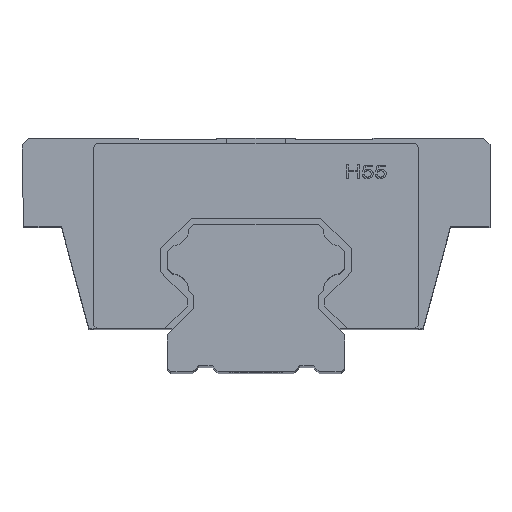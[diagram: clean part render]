
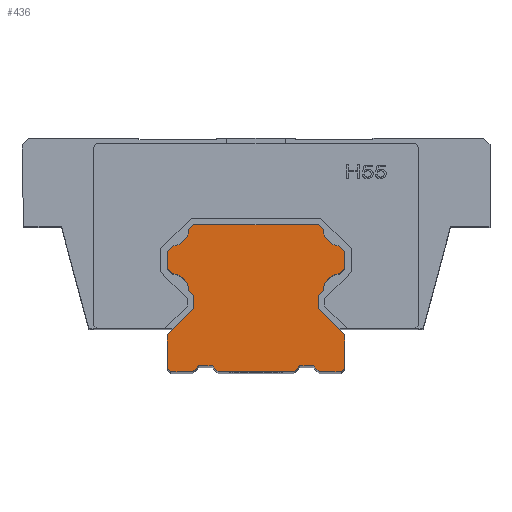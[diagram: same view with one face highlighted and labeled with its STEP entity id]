
A CAD part, top view. The second image highlights one B-rep face of the part: STEP entity #436.
In plain terms, the highlighted planar face has unit normal (0, 0, 1).
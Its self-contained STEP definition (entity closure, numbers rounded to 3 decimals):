
#213=FACE_OUTER_BOUND('',#931,.T.);
#436=ADVANCED_FACE('',(#213),#638,.F.);
#638=PLANE('',#4221);
#813=CIRCLE('',#4217,5.3);
#814=CIRCLE('',#4218,5.3);
#815=CIRCLE('',#4219,5.3);
#816=CIRCLE('',#4220,5.3);
#931=EDGE_LOOP('',(#1175,#1176,#1177,#1178,#1179,#1180,#1181,#1182,#1183,
#1184,#1185,#1186,#1187,#1188,#1189,#1190,#1191,#1192,#1193,#1194,#1195,
#1196,#1197,#1198,#1199,#1200,#1201,#1202,#1203,#1204,#1205,#1206));
#1175=ORIENTED_EDGE('',*,*,#2727,.F.);
#1176=ORIENTED_EDGE('',*,*,#2728,.T.);
#1177=ORIENTED_EDGE('',*,*,#2729,.F.);
#1178=ORIENTED_EDGE('',*,*,#2730,.T.);
#1179=ORIENTED_EDGE('',*,*,#2731,.F.);
#1180=ORIENTED_EDGE('',*,*,#2732,.F.);
#1181=ORIENTED_EDGE('',*,*,#2733,.F.);
#1182=ORIENTED_EDGE('',*,*,#2734,.T.);
#1183=ORIENTED_EDGE('',*,*,#2735,.F.);
#1184=ORIENTED_EDGE('',*,*,#2736,.F.);
#1185=ORIENTED_EDGE('',*,*,#2737,.F.);
#1186=ORIENTED_EDGE('',*,*,#2720,.F.);
#1187=ORIENTED_EDGE('',*,*,#2738,.F.);
#1188=ORIENTED_EDGE('',*,*,#2739,.F.);
#1189=ORIENTED_EDGE('',*,*,#2740,.F.);
#1190=ORIENTED_EDGE('',*,*,#2741,.F.);
#1191=ORIENTED_EDGE('',*,*,#2742,.F.);
#1192=ORIENTED_EDGE('',*,*,#2743,.F.);
#1193=ORIENTED_EDGE('',*,*,#2744,.F.);
#1194=ORIENTED_EDGE('',*,*,#2745,.F.);
#1195=ORIENTED_EDGE('',*,*,#2746,.F.);
#1196=ORIENTED_EDGE('',*,*,#2747,.F.);
#1197=ORIENTED_EDGE('',*,*,#2748,.F.);
#1198=ORIENTED_EDGE('',*,*,#2749,.T.);
#1199=ORIENTED_EDGE('',*,*,#2750,.F.);
#1200=ORIENTED_EDGE('',*,*,#2751,.F.);
#1201=ORIENTED_EDGE('',*,*,#2752,.F.);
#1202=ORIENTED_EDGE('',*,*,#2710,.T.);
#1203=ORIENTED_EDGE('',*,*,#2753,.F.);
#1204=ORIENTED_EDGE('',*,*,#2754,.F.);
#1205=ORIENTED_EDGE('',*,*,#2755,.F.);
#1206=ORIENTED_EDGE('',*,*,#2756,.T.);
#2311=VERTEX_POINT('',#5418);
#2314=VERTEX_POINT('',#5423);
#2321=VERTEX_POINT('',#5442);
#2324=VERTEX_POINT('',#5447);
#2331=VERTEX_POINT('',#5469);
#2332=VERTEX_POINT('',#5470);
#2333=VERTEX_POINT('',#5472);
#2334=VERTEX_POINT('',#5474);
#2335=VERTEX_POINT('',#5476);
#2336=VERTEX_POINT('',#5478);
#2337=VERTEX_POINT('',#5480);
#2338=VERTEX_POINT('',#5482);
#2339=VERTEX_POINT('',#5484);
#2340=VERTEX_POINT('',#5486);
#2341=VERTEX_POINT('',#5488);
#2342=VERTEX_POINT('',#5491);
#2343=VERTEX_POINT('',#5493);
#2344=VERTEX_POINT('',#5495);
#2345=VERTEX_POINT('',#5497);
#2346=VERTEX_POINT('',#5499);
#2347=VERTEX_POINT('',#5501);
#2348=VERTEX_POINT('',#5503);
#2349=VERTEX_POINT('',#5505);
#2350=VERTEX_POINT('',#5507);
#2351=VERTEX_POINT('',#5509);
#2352=VERTEX_POINT('',#5511);
#2353=VERTEX_POINT('',#5513);
#2354=VERTEX_POINT('',#5515);
#2355=VERTEX_POINT('',#5517);
#2356=VERTEX_POINT('',#5520);
#2357=VERTEX_POINT('',#5522);
#2358=VERTEX_POINT('',#5524);
#2710=EDGE_CURVE('',#2311,#2314,#3294,.T.);
#2720=EDGE_CURVE('',#2324,#2321,#3298,.T.);
#2727=EDGE_CURVE('',#2331,#2332,#3299,.T.);
#2728=EDGE_CURVE('',#2331,#2333,#3300,.T.);
#2729=EDGE_CURVE('',#2334,#2333,#3301,.T.);
#2730=EDGE_CURVE('',#2334,#2335,#3302,.T.);
#2731=EDGE_CURVE('',#2336,#2335,#3303,.T.);
#2732=EDGE_CURVE('',#2337,#2336,#813,.T.);
#2733=EDGE_CURVE('',#2338,#2337,#3304,.T.);
#2734=EDGE_CURVE('',#2338,#2339,#3305,.T.);
#2735=EDGE_CURVE('',#2340,#2339,#3306,.T.);
#2736=EDGE_CURVE('',#2341,#2340,#814,.T.);
#2737=EDGE_CURVE('',#2321,#2341,#3307,.T.);
#2738=EDGE_CURVE('',#2342,#2324,#3308,.T.);
#2739=EDGE_CURVE('',#2343,#2342,#815,.T.);
#2740=EDGE_CURVE('',#2344,#2343,#3309,.T.);
#2741=EDGE_CURVE('',#2345,#2344,#3310,.T.);
#2742=EDGE_CURVE('',#2346,#2345,#3311,.T.);
#2743=EDGE_CURVE('',#2347,#2346,#816,.T.);
#2744=EDGE_CURVE('',#2348,#2347,#3312,.T.);
#2745=EDGE_CURVE('',#2349,#2348,#3313,.T.);
#2746=EDGE_CURVE('',#2350,#2349,#3314,.T.);
#2747=EDGE_CURVE('',#2351,#2350,#3315,.T.);
#2748=EDGE_CURVE('',#2352,#2351,#3316,.T.);
#2749=EDGE_CURVE('',#2352,#2353,#3317,.T.);
#2750=EDGE_CURVE('',#2354,#2353,#3318,.T.);
#2751=EDGE_CURVE('',#2355,#2354,#3319,.T.);
#2752=EDGE_CURVE('',#2311,#2355,#3320,.T.);
#2753=EDGE_CURVE('',#2356,#2314,#3321,.T.);
#2754=EDGE_CURVE('',#2357,#2356,#3322,.T.);
#2755=EDGE_CURVE('',#2358,#2357,#3323,.T.);
#2756=EDGE_CURVE('',#2358,#2332,#3324,.T.);
#3294=LINE('',#5424,#3738);
#3298=LINE('',#5448,#3742);
#3299=LINE('',#5468,#3743);
#3300=LINE('',#5471,#3744);
#3301=LINE('',#5473,#3745);
#3302=LINE('',#5475,#3746);
#3303=LINE('',#5477,#3747);
#3304=LINE('',#5481,#3748);
#3305=LINE('',#5483,#3749);
#3306=LINE('',#5485,#3750);
#3307=LINE('',#5489,#3751);
#3308=LINE('',#5490,#3752);
#3309=LINE('',#5494,#3753);
#3310=LINE('',#5496,#3754);
#3311=LINE('',#5498,#3755);
#3312=LINE('',#5502,#3756);
#3313=LINE('',#5504,#3757);
#3314=LINE('',#5506,#3758);
#3315=LINE('',#5508,#3759);
#3316=LINE('',#5510,#3760);
#3317=LINE('',#5512,#3761);
#3318=LINE('',#5514,#3762);
#3319=LINE('',#5516,#3763);
#3320=LINE('',#5518,#3764);
#3321=LINE('',#5519,#3765);
#3322=LINE('',#5521,#3766);
#3323=LINE('',#5523,#3767);
#3324=LINE('',#5525,#3768);
#3738=VECTOR('',#4453,1.);
#3742=VECTOR('',#4477,1.);
#3743=VECTOR('',#4504,1.);
#3744=VECTOR('',#4505,1.);
#3745=VECTOR('',#4506,1.);
#3746=VECTOR('',#4507,1.);
#3747=VECTOR('',#4508,1.);
#3748=VECTOR('',#4511,1.);
#3749=VECTOR('',#4512,1.);
#3750=VECTOR('',#4513,1.);
#3751=VECTOR('',#4516,1.);
#3752=VECTOR('',#4517,1.);
#3753=VECTOR('',#4520,1.);
#3754=VECTOR('',#4521,1.);
#3755=VECTOR('',#4522,1.);
#3756=VECTOR('',#4525,1.);
#3757=VECTOR('',#4526,1.);
#3758=VECTOR('',#4527,1.);
#3759=VECTOR('',#4528,1.);
#3760=VECTOR('',#4529,1.);
#3761=VECTOR('',#4530,1.);
#3762=VECTOR('',#4531,1.);
#3763=VECTOR('',#4532,1.);
#3764=VECTOR('',#4533,1.);
#3765=VECTOR('',#4534,1.);
#3766=VECTOR('',#4535,1.);
#3767=VECTOR('',#4536,1.);
#3768=VECTOR('',#4537,1.);
#4217=AXIS2_PLACEMENT_3D('',#5479,#4509,#4510);
#4218=AXIS2_PLACEMENT_3D('',#5487,#4514,#4515);
#4219=AXIS2_PLACEMENT_3D('',#5492,#4518,#4519);
#4220=AXIS2_PLACEMENT_3D('',#5500,#4523,#4524);
#4221=AXIS2_PLACEMENT_3D('',#5526,#4538,#4539);
#4453=DIRECTION('',(1.,0.,0.));
#4477=DIRECTION('',(1.,0.,0.));
#4504=DIRECTION('',(-0.707,-0.707,0.));
#4505=DIRECTION('',(0.,1.,0.));
#4506=DIRECTION('',(0.707,-0.707,0.));
#4507=DIRECTION('',(0.,1.,0.));
#4508=DIRECTION('',(-0.707,-0.707,0.));
#4509=DIRECTION('',(0.,0.,1.));
#4510=DIRECTION('',(-0.063,0.998,0.));
#4511=DIRECTION('',(-0.707,-0.707,0.));
#4512=DIRECTION('',(0.,1.,0.));
#4513=DIRECTION('',(0.707,-0.707,0.));
#4514=DIRECTION('',(0.,0.,1.));
#4515=DIRECTION('',(-0.998,-0.063,0.));
#4516=DIRECTION('',(0.707,-0.707,0.));
#4517=DIRECTION('',(0.707,0.707,0.));
#4518=DIRECTION('',(0.,0.,1.));
#4519=DIRECTION('',(0.063,-0.998,0.));
#4520=DIRECTION('',(0.707,0.707,0.));
#4521=DIRECTION('',(0.,1.,0.));
#4522=DIRECTION('',(-0.707,0.707,0.));
#4523=DIRECTION('',(0.,0.,1.));
#4524=DIRECTION('',(0.998,0.063,0.));
#4525=DIRECTION('',(-0.707,0.707,0.));
#4526=DIRECTION('',(0.,1.,0.));
#4527=DIRECTION('',(0.707,0.707,0.));
#4528=DIRECTION('',(0.,1.,0.));
#4529=DIRECTION('',(-0.707,0.707,0.));
#4530=DIRECTION('',(1.,0.,0.));
#4531=DIRECTION('',(-0.707,-0.707,0.));
#4532=DIRECTION('',(-1.,0.,0.));
#4533=DIRECTION('',(-0.707,0.707,0.));
#4534=DIRECTION('',(-0.707,-0.707,0.));
#4535=DIRECTION('',(-1.,0.,0.));
#4536=DIRECTION('',(-0.707,0.707,0.));
#4537=DIRECTION('',(1.,0.,0.));
#4538=DIRECTION('',(0.,0.,-1.));
#4539=DIRECTION('',(1.,0.,0.));
#5418=CARTESIAN_POINT('',(-11.357,0.,-1750.));
#5423=CARTESIAN_POINT('',(11.357,0.,-1750.));
#5424=CARTESIAN_POINT('',(-11.357,0.,-1750.));
#5442=CARTESIAN_POINT('',(18.55,44.,-1750.));
#5447=CARTESIAN_POINT('',(-18.55,44.,-1750.));
#5448=CARTESIAN_POINT('',(-18.55,44.,-1750.));
#5468=CARTESIAN_POINT('',(26.5,1.,-1750.));
#5469=CARTESIAN_POINT('',(26.5,1.,-1750.));
#5470=CARTESIAN_POINT('',(25.5,0.,-1750.));
#5471=CARTESIAN_POINT('',(26.5,1.,-1750.));
#5472=CARTESIAN_POINT('',(26.5,11.,-1750.));
#5473=CARTESIAN_POINT('',(18.55,18.95,-1750.));
#5474=CARTESIAN_POINT('',(18.55,18.95,-1750.));
#5475=CARTESIAN_POINT('',(18.55,18.95,-1750.));
#5476=CARTESIAN_POINT('',(18.55,22.85,-1750.));
#5477=CARTESIAN_POINT('',(20.046,24.346,-1750.));
#5478=CARTESIAN_POINT('',(20.046,24.346,-1750.));
#5479=CARTESIAN_POINT('',(25.336,24.014,-1750.));
#5480=CARTESIAN_POINT('',(25.004,29.304,-1750.));
#5481=CARTESIAN_POINT('',(26.5,30.8,-1750.));
#5482=CARTESIAN_POINT('',(26.5,30.8,-1750.));
#5483=CARTESIAN_POINT('',(26.5,30.8,-1750.));
#5484=CARTESIAN_POINT('',(26.5,36.05,-1750.));
#5485=CARTESIAN_POINT('',(25.004,37.546,-1750.));
#5486=CARTESIAN_POINT('',(25.004,37.546,-1750.));
#5487=CARTESIAN_POINT('',(25.336,42.836,-1750.));
#5488=CARTESIAN_POINT('',(20.046,42.504,-1750.));
#5489=CARTESIAN_POINT('',(18.55,44.,-1750.));
#5490=CARTESIAN_POINT('',(-20.046,42.504,-1750.));
#5491=CARTESIAN_POINT('',(-20.046,42.504,-1750.));
#5492=CARTESIAN_POINT('',(-25.336,42.836,-1750.));
#5493=CARTESIAN_POINT('',(-25.004,37.546,-1750.));
#5494=CARTESIAN_POINT('',(-26.5,36.05,-1750.));
#5495=CARTESIAN_POINT('',(-26.5,36.05,-1750.));
#5496=CARTESIAN_POINT('',(-26.5,30.8,-1750.));
#5497=CARTESIAN_POINT('',(-26.5,30.8,-1750.));
#5498=CARTESIAN_POINT('',(-25.004,29.304,-1750.));
#5499=CARTESIAN_POINT('',(-25.004,29.304,-1750.));
#5500=CARTESIAN_POINT('',(-25.336,24.014,-1750.));
#5501=CARTESIAN_POINT('',(-20.046,24.346,-1750.));
#5502=CARTESIAN_POINT('',(-18.55,22.85,-1750.));
#5503=CARTESIAN_POINT('',(-18.55,22.85,-1750.));
#5504=CARTESIAN_POINT('',(-18.55,18.95,-1750.));
#5505=CARTESIAN_POINT('',(-18.55,18.95,-1750.));
#5506=CARTESIAN_POINT('',(-26.5,11.,-1750.));
#5507=CARTESIAN_POINT('',(-26.5,11.,-1750.));
#5508=CARTESIAN_POINT('',(-26.5,1.,-1750.));
#5509=CARTESIAN_POINT('',(-26.5,1.,-1750.));
#5510=CARTESIAN_POINT('',(-25.5,0.,-1750.));
#5511=CARTESIAN_POINT('',(-25.5,0.,-1750.));
#5512=CARTESIAN_POINT('',(-25.5,0.,-1750.));
#5513=CARTESIAN_POINT('',(-18.929,0.,-1750.));
#5514=CARTESIAN_POINT('',(-17.162,1.767,-1750.));
#5515=CARTESIAN_POINT('',(-17.162,1.767,-1750.));
#5516=CARTESIAN_POINT('',(-13.124,1.767,-1750.));
#5517=CARTESIAN_POINT('',(-13.124,1.767,-1750.));
#5518=CARTESIAN_POINT('',(-11.357,0.,-1750.));
#5519=CARTESIAN_POINT('',(13.124,1.767,-1750.));
#5520=CARTESIAN_POINT('',(13.124,1.767,-1750.));
#5521=CARTESIAN_POINT('',(17.162,1.767,-1750.));
#5522=CARTESIAN_POINT('',(17.162,1.767,-1750.));
#5523=CARTESIAN_POINT('',(18.929,0.,-1750.));
#5524=CARTESIAN_POINT('',(18.929,0.,-1750.));
#5525=CARTESIAN_POINT('',(18.929,0.,-1750.));
#5526=CARTESIAN_POINT('',(29.15,-2.2,-1750.));
